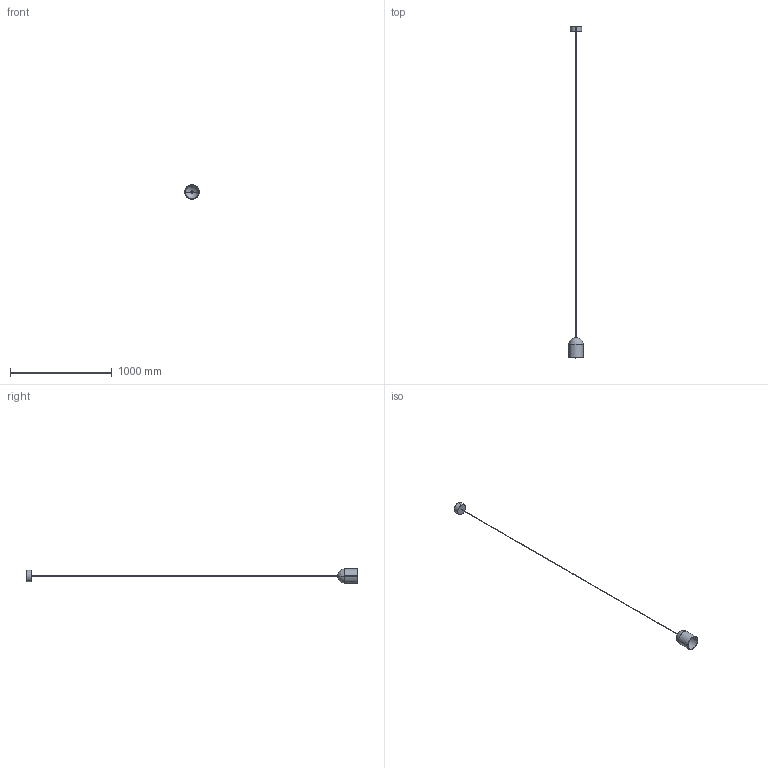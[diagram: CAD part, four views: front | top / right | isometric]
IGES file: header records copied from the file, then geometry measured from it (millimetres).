
Start section: SolidWorks IGES file using analytic representation for surfaces
Global section: file name: C:\Users\adrian\Desktop\MODELADOS USA\COPO\COPO_CU1085.IGS; native system: SolidWorks 2023; preprocessor: SolidWorks 2023; author: adrian; date: 260605.092949; units: inch
Bounding box: 140 x 3260.04 x 140 mm (x, y, z)
Surface area: 237913.8 mm2 (no closed solid volume)
Topology: 0 solids, 0 shells, 24 faces, 512 edges, 511 vertices
Faces by surface type: revolution 16, bspline 8
